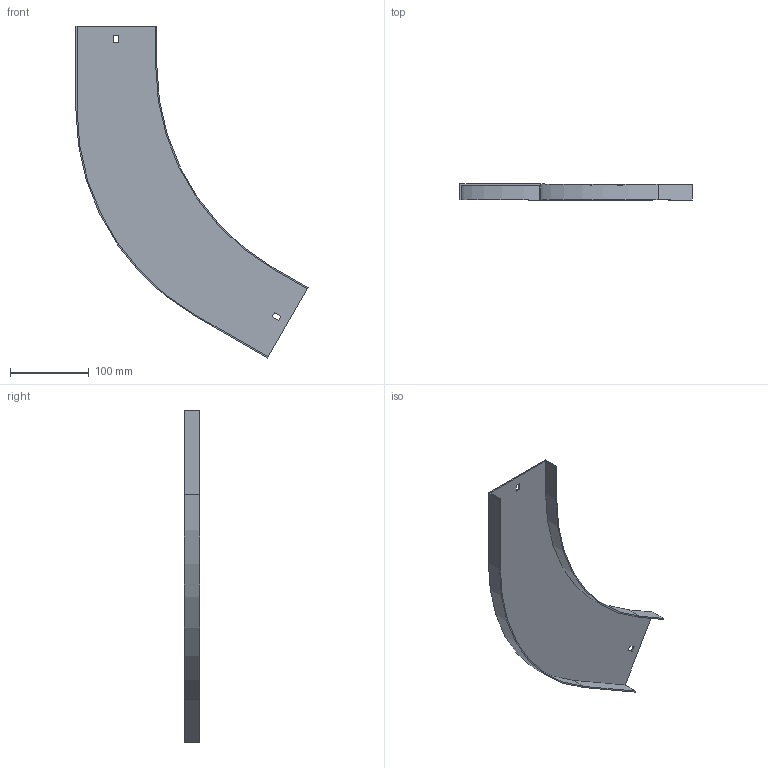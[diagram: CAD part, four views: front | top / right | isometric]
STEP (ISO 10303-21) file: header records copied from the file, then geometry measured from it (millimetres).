
FILE_DESCRIPTION (( 'STEP AP214' ), '1' );
FILE_NAME ('B2_13N3R100.step', '2025-02-21T10:52:35', ( '' ), ( '' ), 'SwSTEP 2.0', 'SolidWorks 2023', '' );
FILE_SCHEMA (( 'AUTOMOTIVE_DESIGN' ));
Length unit declared in the file: millimetre
Products named in the file (1): B2_13N3R100
Bounding box: 295.55 x 20 x 422.71 mm (x, y, z)
Volume: 103759.9 mm3; surface area: 140275.3 mm2
Topology: 1 solids, 1 shells, 26 faces, 72 edges, 48 vertices
Faces by surface type: plane 22, cylinder 4
Entity records: 855 total; most frequent: CARTESIAN_POINT 147, ORIENTED_EDGE 144, DIRECTION 134, EDGE_CURVE 72, LINE 64, VECTOR 64, VERTEX_POINT 48, AXIS2_PLACEMENT_3D 35
